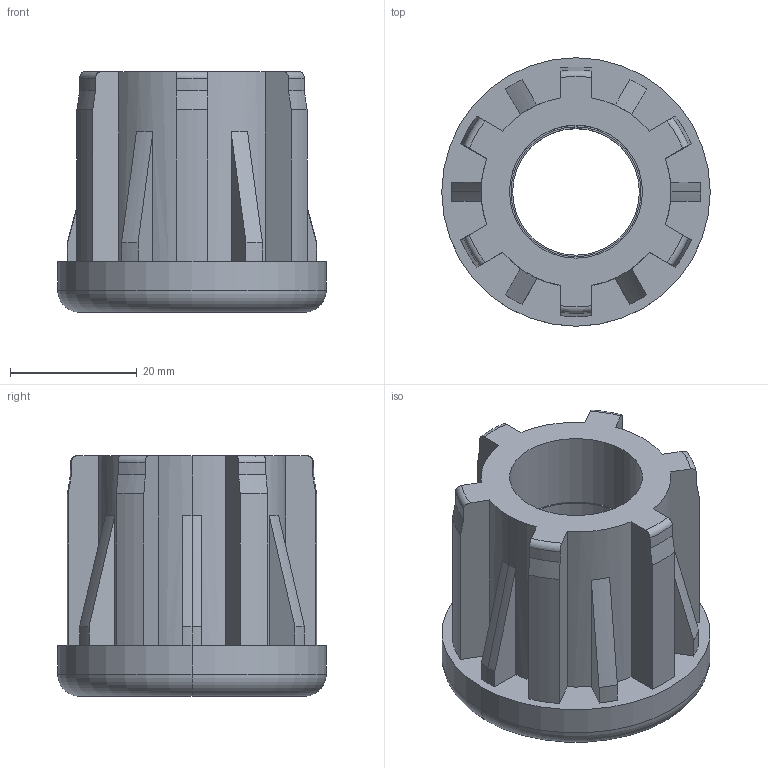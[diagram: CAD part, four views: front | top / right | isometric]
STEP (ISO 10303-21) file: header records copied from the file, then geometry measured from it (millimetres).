
FILE_DESCRIPTION (( 'STEP AP214' ), '1' );
FILE_NAME ('42006442220.STEP', '2020-02-25T17:14:55', ( '' ), ( '' ), 'SwSTEP 2.0', 'SolidWorks 2018', '' );
FILE_SCHEMA (( 'AUTOMOTIVE_DESIGN' ));
Length unit declared in the file: millimetre
Products named in the file (4): Component1.stp; 42006442220; 42006442220.stp; BC_M20.stp
Assembly tree (3 placements, depth 3):
  42006442220
    42006442220.stp
      Component1.stp
      BC_M20.stp
Bounding box: 42.4 x 42.4 x 38 mm (x, y, z)
Volume: 24627.3 mm3; surface area: 13816.8 mm2
Topology: 2 solids, 2 shells, 112 faces, 290 edges, 186 vertices
Faces by surface type: cylinder 44, plane 32, cone 22, torus 14
Entity records: 3698 total; most frequent: CARTESIAN_POINT 793, DIRECTION 608, ORIENTED_EDGE 580, EDGE_CURVE 290, AXIS2_PLACEMENT_3D 241, VERTEX_POINT 186, LINE 126, VECTOR 126
